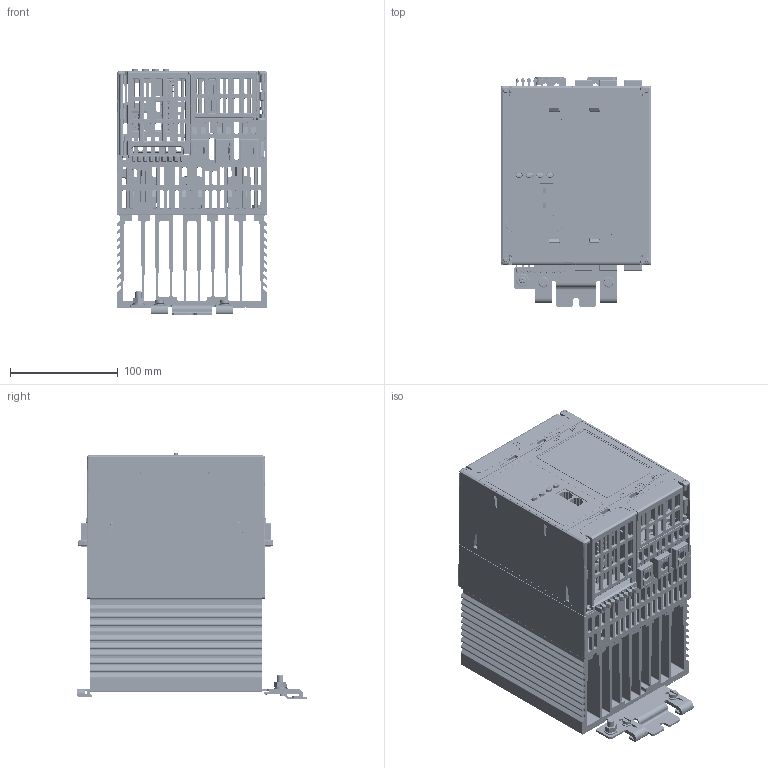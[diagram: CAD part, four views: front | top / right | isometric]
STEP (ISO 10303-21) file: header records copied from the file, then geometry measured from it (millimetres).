
FILE_DESCRIPTION((''),'2;1');
FILE_NAME('EPACK_63A_3PH','2017-01-25T',('SESA317746'),(''),'PRO/ENGINEER BY PARAMETRIC TECHNOLOGY CORPORATION, 2014320','PRO/ENGINEER BY PARAMETRIC TECHNOLOGY CORPORATION, 2014320','');
FILE_SCHEMA(('CONFIG_CONTROL_DESIGN'));
Products named in the file (1): EPACK_63A_3PH
Bounding box: 140 x 213.35 x 229.51 mm (x, y, z)
Volume: 1175042 mm3; surface area: 841813.3 mm2
Topology: 5 solids, 119 shells, 18088 faces, 50532 edges, 32782 vertices
Faces by surface type: plane 10320, cylinder 3943, extrusion 1565, bspline 1073, torus 617, cone 505, sphere 63, revolution 2
Entity records: 678027 total; most frequent: CARTESIAN_POINT 224893, ORIENTED_EDGE 100138, DIRECTION 82493, EDGE_CURVE 50451, VECTOR 36621, LINE 35056, VERTEX_POINT 32780, AXIS2_PLACEMENT_3D 22935
